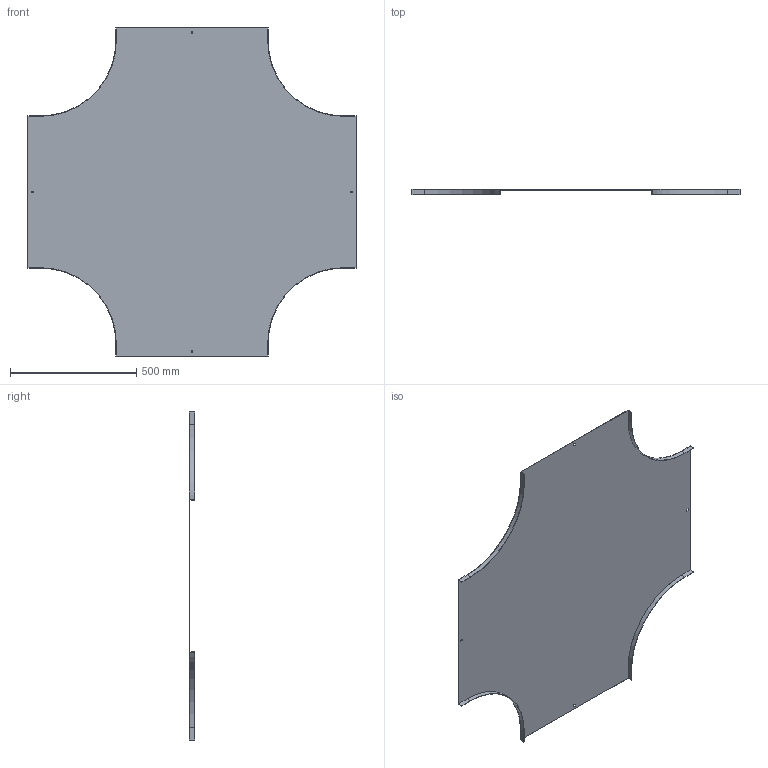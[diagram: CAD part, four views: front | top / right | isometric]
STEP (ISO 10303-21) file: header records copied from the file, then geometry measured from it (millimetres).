
FILE_DESCRIPTION (( 'STEP AP214' ), '1' );
FILE_NAME ('B2_17N3R600.step', '2025-02-21T12:08:54', ( '' ), ( '' ), 'SwSTEP 2.0', 'SolidWorks 2023', '' );
FILE_SCHEMA (( 'AUTOMOTIVE_DESIGN' ));
Length unit declared in the file: millimetre
Products named in the file (1): B2_17N3R600
Bounding box: 1300 x 20 x 1300 mm (x, y, z)
Volume: 1983941.3 mm3; surface area: 2652694.3 mm2
Topology: 1 solids, 1 shells, 50 faces, 144 edges, 96 vertices
Faces by surface type: plane 42, cylinder 8
Entity records: 1663 total; most frequent: CARTESIAN_POINT 291, ORIENTED_EDGE 288, DIRECTION 262, EDGE_CURVE 144, VECTOR 128, LINE 128, VERTEX_POINT 96, AXIS2_PLACEMENT_3D 67
